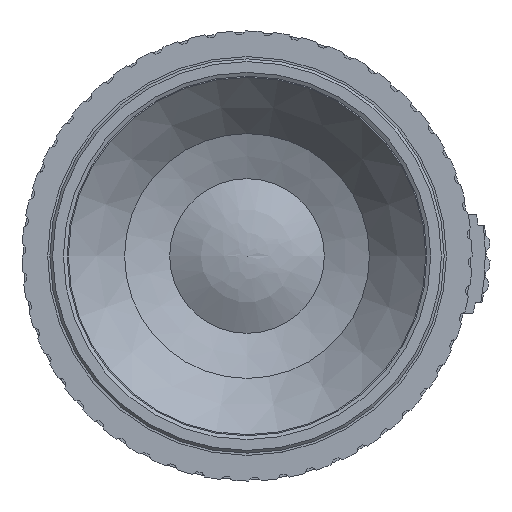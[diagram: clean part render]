
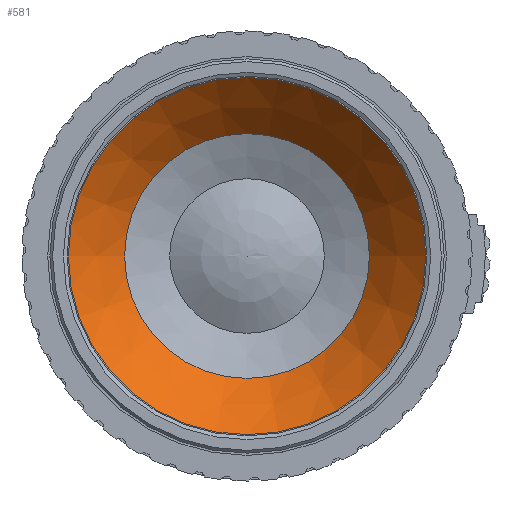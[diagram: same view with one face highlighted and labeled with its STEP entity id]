
A CAD part, left-side view. The second image highlights one B-rep face of the part: STEP entity #581.
In plain terms, the highlighted conical face has half-angle 41.964 degrees and reference radius 19.85 mm.
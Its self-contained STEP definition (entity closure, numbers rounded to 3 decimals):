
#485=CONICAL_SURFACE('',#7083,19.85,41.964);
#581=ADVANCED_FACE('',(#1210,#1211),#485,.F.);
#1210=FACE_BOUND('',#1329,.T.);
#1211=FACE_BOUND('',#1330,.T.);
#1329=EDGE_LOOP('',(#3293));
#1330=EDGE_LOOP('',(#3294));
#3293=ORIENTED_EDGE('',*,*,#5884,.F.);
#3294=ORIENTED_EDGE('',*,*,#5889,.T.);
#5242=VERTEX_POINT('',#10100);
#5247=VERTEX_POINT('',#10114);
#5884=EDGE_CURVE('',#5242,#5242,#6745,.T.);
#5889=EDGE_CURVE('',#5247,#5247,#6750,.T.);
#6745=CIRCLE('',#7073,13.6);
#6750=CIRCLE('',#7082,19.85);
#7073=AXIS2_PLACEMENT_3D('',#10099,#8013,#8014);
#7082=AXIS2_PLACEMENT_3D('',#10113,#8031,#8032);
#7083=AXIS2_PLACEMENT_3D('',#10115,#8033,#8034);
#8013=DIRECTION('',(-1.,0.,0.));
#8014=DIRECTION('',(0.,-1.,0.));
#8031=DIRECTION('',(-1.,0.,0.));
#8032=DIRECTION('',(0.,-1.,0.));
#8033=DIRECTION('',(-1.,0.,0.));
#8034=DIRECTION('',(0.,1.,0.));
#10099=CARTESIAN_POINT('',(0.214,0.,0.));
#10100=CARTESIAN_POINT('',(0.214,-13.6,0.));
#10113=CARTESIAN_POINT('',(-6.736,0.,0.));
#10114=CARTESIAN_POINT('',(-6.736,-19.85,0.));
#10115=CARTESIAN_POINT('',(-6.736,0.,0.));
